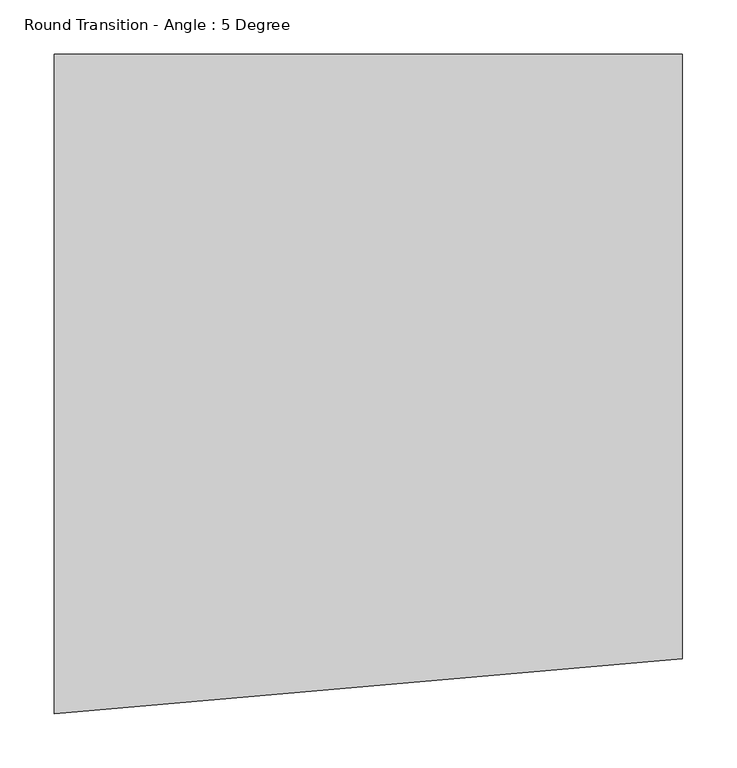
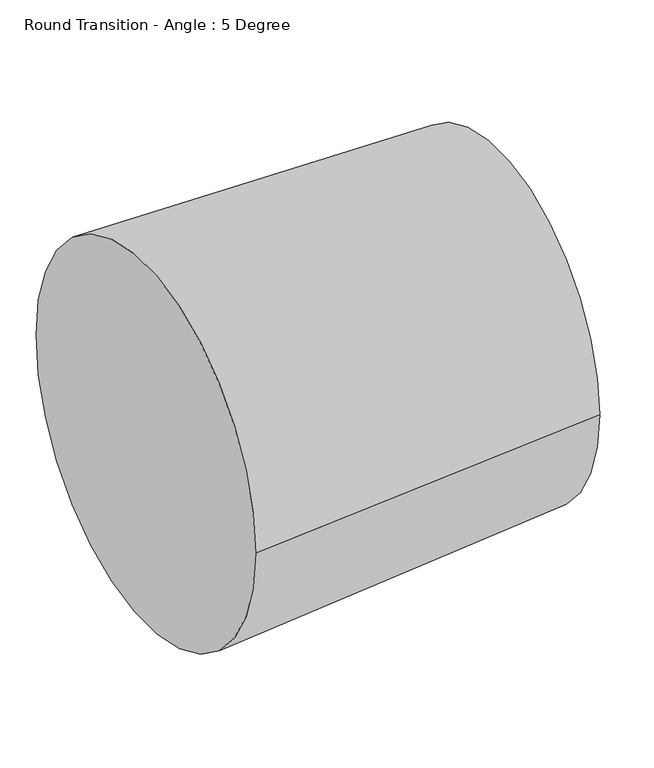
"""IFC4 building model written with IfcOpenShell, lengths in millimetres: duct fitting geometry, Round Transition - Angle : 5 Degree."""

from ifc_helpers import new_model, si_unit, frame, origin, place, context, project, spatial, circle_curve, source, transform, mapped, element, save
from ifc_brep_helpers import plane_surface, spline_surface, advanced_brep


def round_transition_angle_5_degree_61572db6(model_context):
    return source(origin(), model_context, "Body", "AdvancedBrep", [
        advanced_brep(
        [(580.646657, -254.0, 0.0), (580.646657, 304.8, 0.0), (0.0, -304.8, 0.0), (0.0, 304.8, 0.0)],
        [
            (0, 1, circle_curve(frame((580.646657, 25.4, 0.0), z_axis=(1.0, 0.0, 0.0), x_axis=(0.0, 1.0, 0.0)), 279.4)),
            (1, 0, circle_curve(frame((580.646657, 25.4, 0.0), z_axis=(1.0, 0.0, 0.0), x_axis=(0.0, 1.0, 0.0)), 279.4)),
            (2, 3, circle_curve(frame((0.0, 0.0, 0.0), z_axis=(-1.0, 0.0, 0.0), x_axis=(0.0, 1.0, 0.0)), 304.8)),
            (3, 2, circle_curve(frame((0.0, 0.0, 0.0), z_axis=(-1.0, 0.0, 0.0), x_axis=(0.0, 1.0, 0.0)), 304.8)),
            (3, 1),
            (0, 2),
        ],
        [
            plane_surface(frame((580.646657, 25.4, 0.0), z_axis=(1.0, 0.0, 0.0), x_axis=(0.0, 0.0, -1.0))),
            plane_surface(frame((0.0, 0.0, 0.0), z_axis=(-1.0, 0.0, 0.0), x_axis=(0.0, 0.0, -1.0))),
            spline_surface(2, 1, [[(0.0, -304.8, 0.0), (580.646657, -254.0, 0.0)], [(0.0, -304.8, -304.8), (580.646657, -253.99999999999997, -279.4)], [(0.0, 0.0, -304.8), (580.646657, 25.4, -279.4)], [(0.0, 304.8, -304.8), (580.646657, 304.79999999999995, -279.4)], [(0.0, 304.8, 0.0), (580.646657, 304.8, 0.0)]], [3, 2, 3], [2, 2], [0.0, 1.0, 2.0], [0.0, 1.0], weights=[[1.0, 1.0], [0.7071067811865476, 0.7071067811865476], [1.0, 1.0], [0.7071067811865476, 0.7071067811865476], [1.0, 1.0]]),
            spline_surface(2, 1, [[(0.0, 304.8, 0.0), (580.646657, 304.8, 0.0)], [(0.0, 304.8, 304.8), (580.646657, 304.8, 279.40000000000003)], [(0.0, 0.0, 304.8), (580.646657, 25.4, 279.40000000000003)], [(0.0, -304.8, 304.8), (580.646657, -254.00000000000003, 279.40000000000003)], [(0.0, -304.8, 0.0), (580.646657, -254.0, 0.0)]], [3, 2, 3], [2, 2], [0.0, 1.0, 2.0], [0.0, 1.0], weights=[[1.0, 1.0], [0.7071067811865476, 0.7071067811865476], [1.0, 1.0], [0.7071067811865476, 0.7071067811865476], [1.0, 1.0]]),
        ],
        [
            (0, [[1, 2]]),
            (1, [[3, 4]]),
            (2, [[-4, 5, -1, 6]]),
            (3, [[-3, -6, -2, -5]]),
        ],
    ),
    ])


if __name__ == "__main__":
    model = new_model("IFC4")
    model_context = context("Model", 3, world=origin())
    ifc_project = project(units=[si_unit("LENGTHUNIT", "METRE", prefix="MILLI")], contexts=[model_context])
    site = spatial("IfcSite", under=ifc_project)
    building = spatial("IfcBuilding", under=site)
    placement = place(None, origin())
    round_transition_angle_5_degree_shape = round_transition_angle_5_degree_61572db6(model_context)
    element("IfcDuctFitting", 1, ObjectType="Round Transition - Angle : 5 Degree", at=placement, inside=building, context=model_context, shape_type="MappedRepresentation", body=[
        mapped(round_transition_angle_5_degree_shape, transform((0.0, 0.0, 0.0), x_axis=(1.0, 0.0, 0.0), y_axis=(0.0, 1.0, 0.0), z_axis=(0.0, 0.0, 1.0))),
    ])
    save(model, "model.ifc")
